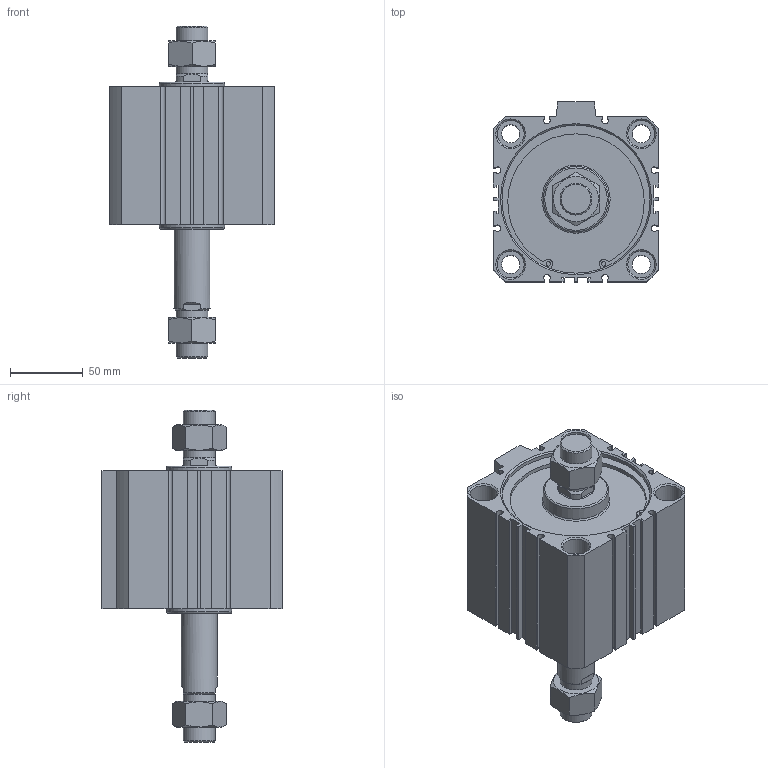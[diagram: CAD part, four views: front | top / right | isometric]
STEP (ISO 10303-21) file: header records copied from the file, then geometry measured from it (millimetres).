
FILE_DESCRIPTION((''),'2;1');
FILE_NAME('I:\3D電子目錄\氣缸\JDD\JDD-B\JDD100-B\JDD100x50-B.stp','2007-02-27T13:28:26',('662F206'),(''),'Autodesk Inventor 10','Autodesk Inventor 10','');
FILE_SCHEMA(('AUTOMOTIVE_DESIGN { 1 0 10303 214 1 1 1 1 }'));
Length unit declared in the file: millimetre
Products named in the file (3): JDD100-B; R 形環 100
Assembly tree (3 placements, depth 2):
  JDD100-B
    JDD100-B
    R 形環 100  x2
Bounding box: 114 x 124 x 228.7 mm (x, y, z)
Volume: 1140553.1 mm3; surface area: 132507.4 mm2
Topology: 3 solids, 3 shells, 219 faces, 538 edges, 351 vertices
Faces by surface type: plane 130, cylinder 59, cone 26, bspline 2, torus 2
Full cylindrical faces by diameter (mm): 3.1 x4, 3.5 x2, 12.5 x4, 18.5 x8, 22 x4, 25 x1, 45 x2, 102 x4, 106 x2
Entity records: 5905 total; most frequent: CARTESIAN_POINT 1143, DIRECTION 978, ORIENTED_EDGE 894, EDGE_CURVE 447, AXIS2_PLACEMENT_3D 356, VERTEX_POINT 323, EDGE_LOOP 298, VECTOR 266
